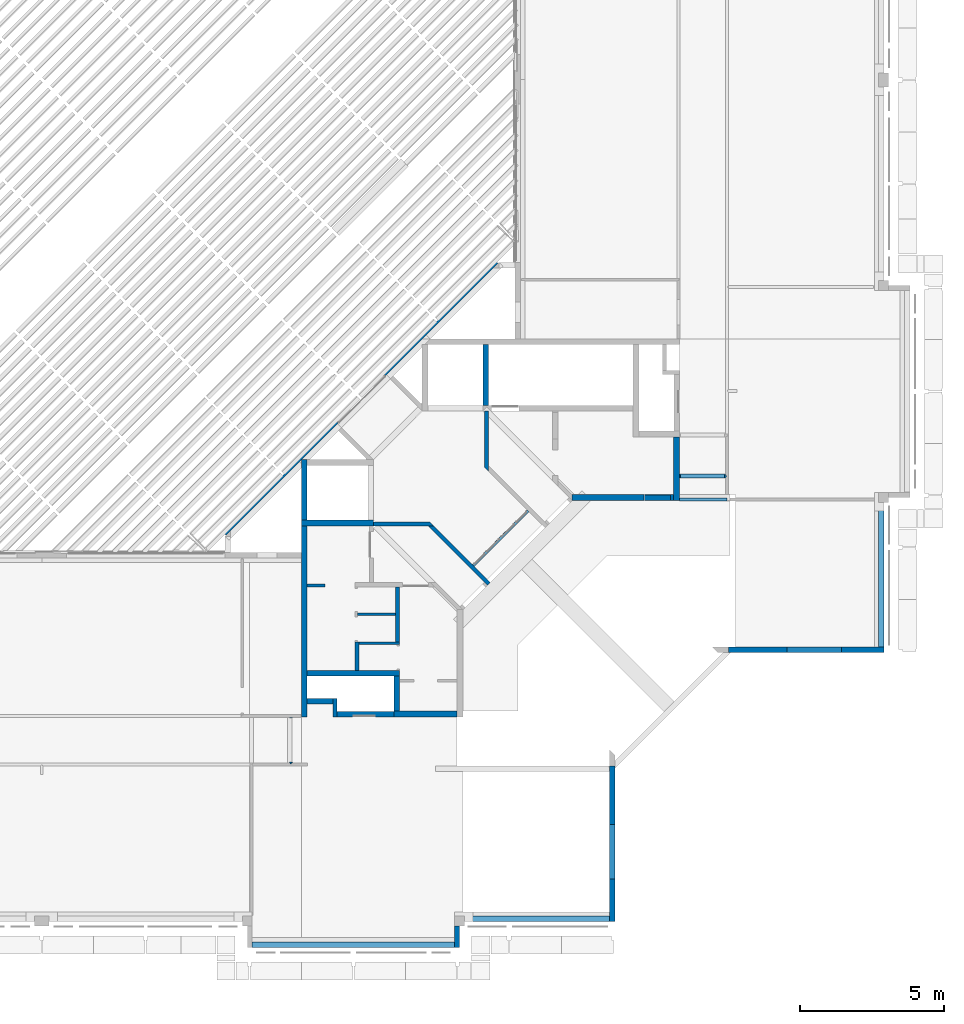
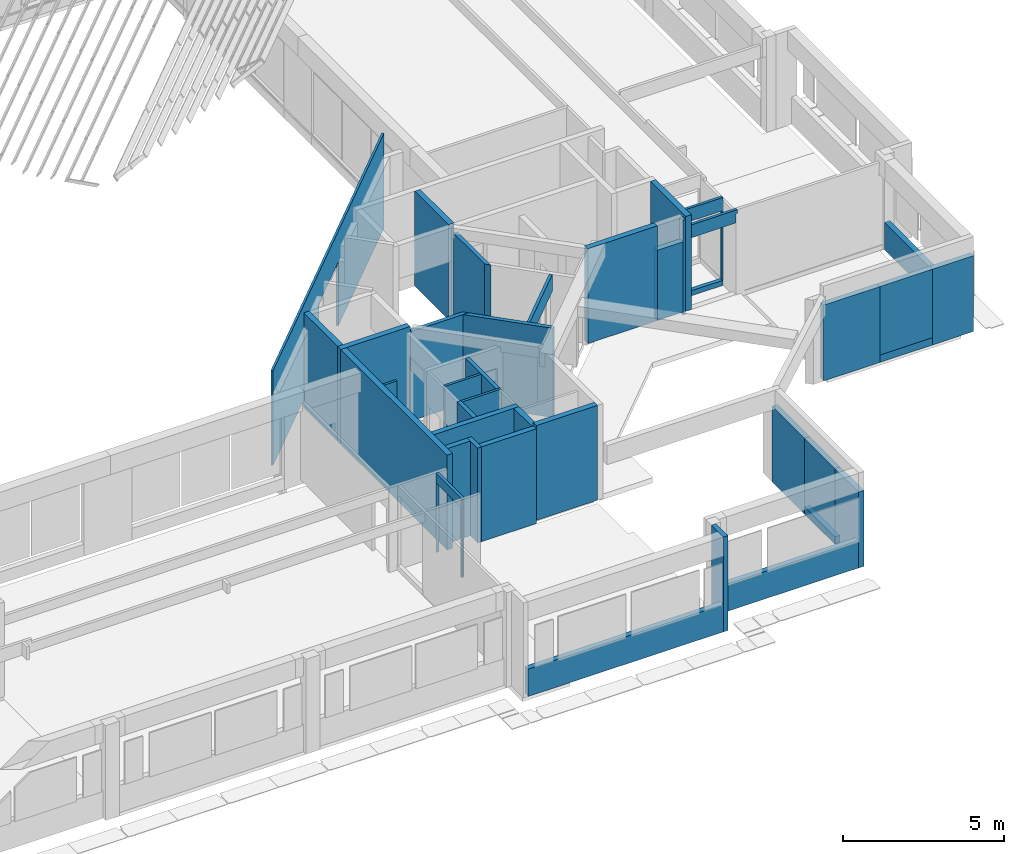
# One storey, part 27 of 37: 42 walls.
"""IFC4X3_ADD2 building model written with IfcOpenShell, lengths in millimetres."""

from ifc_helpers import new_model, si_unit, direction, frame, frame_2d, origin_with_axes, origin_2d_with_axis, place, context, subcontext, project, spatial, polyline, rectangle, outline, extrude, source, transform, mapped, material, type_object, type_shapes, element, save


model = new_model("IFC4X3_ADD2")

# Units and contexts
model_context = context("Model", 3, precision=1e-05, world=origin_with_axes(), true_north=direction((0.0, 1.0)))
body_context = subcontext(model_context, "Body", "Model", "MODEL_VIEW")
ifc_project = project(units=[si_unit("LENGTHUNIT", "METRE", prefix="MILLI"), si_unit("AREAUNIT", "SQUARE_METRE"), si_unit("VOLUMEUNIT", "CUBIC_METRE"), si_unit("PLANEANGLEUNIT", "RADIAN"), si_unit("TIMEUNIT", "SECOND"), si_unit("MASSUNIT", "GRAM")], contexts=[model_context])

# Site, building, storey
site_placement = place(None, origin_with_axes())
site = spatial("IfcSite", under=ifc_project, at=site_placement, Name="Site", CompositionType="ELEMENT")
building_placement = place(site_placement, origin_with_axes())
building = spatial("IfcBuilding", under=site, at=building_placement, Name="IFC Building Story")
storey_placement = place(building_placement, frame((0.0, 0.0, 3600.0), z_axis=(0.0, 0.0, 1.0), x_axis=(1.0, 0.0, 0.0)))
storey = spatial("IfcBuildingStorey", under=building, at=storey_placement, Name="010", Elevation=3600.0)

# Walls
ifc_material_1 = material(Name="BB_Beton_Bestaand")
wall_type_1 = type_object("IfcWallType", Name="BB_Beton_Bestaand 200", PredefinedType="NOTDEFINED", material=ifc_material_1)
wall_1_placement = place(storey_placement, origin_with_axes())
element("IfcWall", 1, at=wall_1_placement, inside=storey, type_object=wall_type_1, Name="Basic Wall:BB_XX_Wand uit beton, 200 mm", ObjectType="Basic Wall:BB_XX_Wand uit beton, 200 mm", PredefinedType="SOLIDWALL", context=body_context, shape_type="SweptSolid", body=[
    extrude(rectangle(XDim=2199.999999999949, YDim=200.0, at=frame_2d((0.0, 0.0), x_axis=(0.0, 1.0))), frame((-7100.0, 15600.00000000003, -80.0), z_axis=(0.0, 0.0, 1.0), x_axis=(1.0, 0.0, 0.0)), (0.0, 0.0, 1.0), 3600.0),
])
wall_2_placement = place(storey_placement, origin_with_axes())
element("IfcWall", 2, at=wall_2_placement, inside=storey, type_object=wall_type_1, Name="Basic Wall:BB_XX_Wand uit beton, 200 mm", ObjectType="Basic Wall:BB_XX_Wand uit beton, 200 mm", PredefinedType="SOLIDWALL", context=body_context, shape_type="SweptSolid", body=[
    extrude(rectangle(XDim=2099.999999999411, YDim=199.9999999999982, at=frame_2d((0.0, 0.0), x_axis=(0.0, 1.0))), frame((-13715.0, 18849.99999999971, -80.0), z_axis=(0.0, 0.0, 1.0), x_axis=(1.0, 0.0, 0.0)), (0.0, 0.0, 1.0), 3600.0),
])
wall_3_placement = place(storey_placement, origin_with_axes())
element("IfcWall", 3, at=wall_3_placement, inside=storey, type_object=wall_type_1, Name="Basic Wall:BB_XX_Wand uit beton, 200 mm", ObjectType="Basic Wall:BB_XX_Wand uit beton, 200 mm", PredefinedType="SOLIDWALL", context=body_context, shape_type="SweptSolid", body=[
    extrude(rectangle(XDim=2496.005050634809, YDim=199.9999999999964, at=origin_2d_with_axis()), frame((-9468.002525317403, 14600.0, -80.0), z_axis=(0.0, 0.0, 1.0), x_axis=(1.0, 0.0, 0.0)), (0.0, 0.0, 1.0), 3600.0),
])
wall_4_placement = place(storey_placement, origin_with_axes())
element("IfcWall", 4, at=wall_4_placement, inside=storey, type_object=wall_type_1, Name="Basic Wall:BB_XX_Wand uit beton, 200 mm", ObjectType="Basic Wall:BB_XX_Wand uit beton, 200 mm", PredefinedType="SOLIDWALL", context=body_context, shape_type="SweptSolid", body=[
    extrude(rectangle(XDim=2499.999999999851, YDim=199.9999999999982, at=origin_2d_with_axis()), frame((-18849.99999999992, 13715.0, -80.0), z_axis=(0.0, 0.0, 1.0), x_axis=(1.0, 0.0, 0.0)), (0.0, 0.0, 1.0), 3600.0),
])
wall_5_placement = place(storey_placement, origin_with_axes())
element("IfcWall", 5, at=wall_5_placement, inside=storey, type_object=wall_type_1, Name="Basic Wall:BB_XX_Wand uit beton, 200 mm", ObjectType="Basic Wall:BB_XX_Wand uit beton, 200 mm", PredefinedType="SOLIDWALL", context=body_context, shape_type="SweptSolid", body=[
    extrude(rectangle(XDim=2099.99999999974, YDim=200.0, at=frame_2d((0.0, 0.0), x_axis=(0.0, 1.0))), frame((-20000.0, 14864.99999999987, -80.0), z_axis=(0.0, 0.0, 1.0), x_axis=(1.0, 0.0, 0.0)), (0.0, 0.0, 1.0), 3600.0),
])
wall_6_placement = place(storey_placement, origin_with_axes())
element("IfcWall", 6, at=wall_6_placement, inside=storey, type_object=wall_type_1, Name="Basic Wall:BB_XX_Wand uit beton, 200 mm", ObjectType="Basic Wall:BB_XX_Wand uit beton, 200 mm", PredefinedType="SOLIDWALL", context=body_context, shape_type="SweptSolid", body=[
    extrude(rectangle(XDim=6615.0, YDim=200.0, at=frame_2d((0.0, 0.0), x_axis=(0.0, 1.0))), frame((-20000.0, 10307.5, -80.0), z_axis=(0.0, 0.0, 1.0), x_axis=(1.0, 0.0, 0.0)), (0.0, 0.0, 1.0), 3600.0),
])
wall_7_placement = place(storey_placement, origin_with_axes())
element("IfcWall", 7, at=wall_7_placement, inside=storey, type_object=wall_type_1, Name="Basic Wall:BB_XX_Wand uit beton, 200 mm", ObjectType="Basic Wall:BB_XX_Wand uit beton, 200 mm", PredefinedType="SOLIDWALL", context=body_context, shape_type="SweptSolid", body=[
    extrude(rectangle(XDim=2190.0, YDim=200.0, at=origin_2d_with_axis()), frame((-15795.0, 7100.0, -80.0), z_axis=(0.0, 0.0, 1.0), x_axis=(1.0, 0.0, 0.0)), (0.0, 0.0, 1.0), 3600.0),
])
wall_type_2 = type_object("IfcWallType", Name="BB_Beton_Bestaand 190", PredefinedType="NOTDEFINED", material=ifc_material_1)
wall_8_placement = place(storey_placement, origin_with_axes())
element("IfcWall", 8, at=wall_8_placement, inside=storey, type_object=wall_type_2, Name="Basic Wall:BB_XX_Wand uit beton, 190 mm", ObjectType="Basic Wall:BB_XX_Wand uit beton, 190 mm", PredefinedType="SOLIDWALL", context=body_context, shape_type="SweptSolid", body=[
    extrude(rectangle(XDim=7010.000000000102, YDim=190.0, at=origin_2d_with_axis()), frame((-18300.00000000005, -900.0, -200.0), z_axis=(0.0, 0.0, 1.0), x_axis=(1.0, 0.0, 0.0)), (0.0, 0.0, 1.0), 1040.0),
])
wall_9_placement = place(storey_placement, origin_with_axes())
element("IfcWall", 9, at=wall_9_placement, inside=storey, type_object=wall_type_2, Name="Basic Wall:BB_XX_Wand uit beton, 190 mm", ObjectType="Basic Wall:BB_XX_Wand uit beton, 190 mm", PredefinedType="SOLIDWALL", context=body_context, shape_type="SweptSolid", body=[
    extrude(rectangle(XDim=5040.000000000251, YDim=190.0, at=origin_2d_with_axis()), frame((-11935.00000000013, 0.0, -200.0), z_axis=(0.0, 0.0, 1.0), x_axis=(1.0, 0.0, 0.0)), (0.0, 0.0, 1.0), 1040.0),
])
wall_10_placement = place(storey_placement, origin_with_axes())
element("IfcWall", 10, at=wall_10_placement, inside=storey, type_object=wall_type_2, Name="Basic Wall:BB_XX_Wand uit beton, 190 mm", ObjectType="Basic Wall:BB_XX_Wand uit beton, 190 mm", PredefinedType="SOLIDWALL", context=body_context, shape_type="SweptSolid", body=[
    extrude(rectangle(XDim=1480.0, YDim=190.0, at=frame_2d((0.0, 0.0), x_axis=(0.0, 1.0))), frame((-9320.0, 644.999999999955, -200.0), z_axis=(0.0, 0.0, 1.0), x_axis=(1.0, 0.0, 0.0)), (0.0, 0.0, 1.0), 2880.0),
])
wall_11_placement = place(storey_placement, origin_with_axes())
element("IfcWall", 11, at=wall_11_placement, inside=storey, type_object=wall_type_2, Name="Basic Wall:BB_XX_Wand uit beton, 190 mm", ObjectType="Basic Wall:BB_XX_Wand uit beton, 190 mm", PredefinedType="SOLIDWALL", context=body_context, shape_type="SweptSolid", body=[
    extrude(rectangle(XDim=2014.99999999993, YDim=190.0, at=frame_2d((0.0, 0.0), x_axis=(0.0, 1.0))), frame((-9320.0, 4282.499999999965, -200.0), z_axis=(0.0, 0.0, 1.0), x_axis=(1.0, 0.0, 0.0)), (0.0, 0.0, 1.0), 2880.0),
])
wall_12_placement = place(storey_placement, origin_with_axes())
element("IfcWall", 12, at=wall_12_placement, inside=storey, type_object=wall_type_2, Name="Basic Wall:BB_XX_Wand uit beton, 190 mm", ObjectType="Basic Wall:BB_XX_Wand uit beton, 190 mm", PredefinedType="SOLIDWALL", context=body_context, shape_type="SweptSolid", body=[
    extrude(rectangle(XDim=1480.00000000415, YDim=190.0, at=origin_2d_with_axis()), frame((-645.000000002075, 9320.0, -200.0), z_axis=(0.0, 0.0, 1.0), x_axis=(1.0, 0.0, 0.0)), (0.0, 0.0, 1.0), 2880.0),
])
wall_13_placement = place(storey_placement, origin_with_axes())
element("IfcWall", 13, at=wall_13_placement, inside=storey, type_object=wall_type_2, Name="Basic Wall:BB_XX_Wand uit beton, 190 mm", ObjectType="Basic Wall:BB_XX_Wand uit beton, 190 mm", PredefinedType="SOLIDWALL", context=body_context, shape_type="SweptSolid", body=[
    extrude(rectangle(XDim=2015.00000000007, YDim=190.0, at=origin_2d_with_axis()), frame((-4282.500000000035, 9320.0, -200.0), z_axis=(0.0, 0.0, 1.0), x_axis=(1.0, 0.0, 0.0)), (0.0, 0.0, 1.0), 2880.0),
])
wall_14_placement = place(storey_placement, origin_with_axes())
element("IfcWall", 14, at=wall_14_placement, inside=storey, type_object=wall_type_2, Name="Basic Wall:BB_XX_Wand uit beton, 190 mm", ObjectType="Basic Wall:BB_XX_Wand uit beton, 190 mm", PredefinedType="SOLIDWALL", context=body_context, shape_type="SweptSolid", body=[
    extrude(rectangle(XDim=5040.000000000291, YDim=190.0, at=frame_2d((0.0, 0.0), x_axis=(0.0, 1.0))), frame((0.0, 11934.99999999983, -200.0), z_axis=(0.0, 0.0, 1.0), x_axis=(1.0, 0.0, 0.0)), (0.0, 0.0, 1.0), 1040.0),
])
wall_15_placement = place(storey_placement, origin_with_axes())
element("IfcWall", 15, at=wall_15_placement, inside=storey, type_object=wall_type_2, Name="Basic Wall:BB_XX_Wand uit beton, 190 mm", ObjectType="Basic Wall:BB_XX_Wand uit beton, 190 mm", PredefinedType="SOLIDWALL", context=body_context, shape_type="SweptSolid", body=[
    extrude(rectangle(XDim=1890.00000000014, YDim=190.0, at=frame_2d((0.0, 0.0), x_axis=(0.0, 1.0))), frame((-9320.0, 2330.00000000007, -200.0), z_axis=(0.0, 0.0, 1.0), x_axis=(1.0, 0.0, 0.0)), (0.0, 0.0, 1.0), 280.0),
])
wall_16_placement = place(storey_placement, origin_with_axes())
element("IfcWall", 16, at=wall_16_placement, inside=storey, type_object=wall_type_2, Name="Basic Wall:BB_XX_Wand uit beton, 190 mm", ObjectType="Basic Wall:BB_XX_Wand uit beton, 190 mm", PredefinedType="SOLIDWALL", context=body_context, shape_type="SweptSolid", body=[
    extrude(rectangle(XDim=1890.0, YDim=190.0, at=origin_2d_with_axis()), frame((-2330.0, 9320.0, -200.0), z_axis=(0.0, 0.0, 1.0), x_axis=(1.0, 0.0, 0.0)), (0.0, 0.0, 1.0), 280.0),
])
wall_17_placement = place(storey_placement, origin_with_axes())
element("IfcWall", 17, at=wall_17_placement, inside=storey, type_object=wall_type_2, Name="Basic Wall:BB_XX_Wand uit beton, 190 mm", ObjectType="Basic Wall:BB_XX_Wand uit beton, 190 mm", PredefinedType="SOLIDWALL", context=body_context, shape_type="SweptSolid", body=[
    extrude(rectangle(XDim=1890.00000000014, YDim=190.0, at=frame_2d((0.0, 0.0), x_axis=(0.0, 1.0))), frame((-9320.0, 2330.00000000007, -200.0), z_axis=(0.0, 0.0, 1.0), x_axis=(1.0, 0.0, 0.0)), (0.0, 0.0, 1.0), 280.0),
])
wall_type_3 = type_object("IfcWallType", Name="BB_Beton_Bestaand 170", PredefinedType="NOTDEFINED", material=ifc_material_1)
wall_18_placement = place(storey_placement, origin_with_axes())
element("IfcWall", 18, at=wall_18_placement, inside=storey, type_object=wall_type_3, Name="Basic Wall:BB_XX_Wand uit beton, 170 mm", ObjectType="Basic Wall:BB_XX_Wand uit beton, 170 mm", PredefinedType="SOLIDWALL", context=body_context, shape_type="SweptSolid", body=[
    extrude(rectangle(XDim=750.000000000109, YDim=170.0, at=frame_2d((0.0, 0.0), x_axis=(0.0, 1.0))), frame((-14710.0, -620.0000000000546, -200.0), z_axis=(0.0, 0.0, 1.0), x_axis=(1.0, 0.0, 0.0)), (0.0, 0.0, 1.0), 3600.0),
])
ifc_material_2 = material(Name="BB_Metselwerk_Bestaand")
wall_type_4 = type_object("IfcWallType", Name="BB_Metselwerk_Bestaand 140", PredefinedType="NOTDEFINED", material=ifc_material_2)
wall_19_placement = place(storey_placement, origin_with_axes())
element("IfcWall", 19, at=wall_19_placement, inside=storey, type_object=wall_type_4, Name="Basic Wall:BB_XX_Wand uit metselwerk, 140 mm", ObjectType="Basic Wall:BB_XX_Wand uit metselwerk, 140 mm", PredefinedType="SOLIDWALL", context=body_context, shape_type="SweptSolid", body=[
    extrude(rectangle(XDim=639.9999999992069, YDim=140.0, at=frame_2d((0.0, 0.0), x_axis=(0.0, 1.0))), frame((-18930.1640790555, 7319.999999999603, -200.0), z_axis=(0.0, 0.0, 1.0), x_axis=(1.0, 0.0, 0.0)), (0.0, 0.0, 1.0), 3600.0),
])
wall_20_placement = place(storey_placement, origin_with_axes())
element("IfcWall", 20, at=wall_20_placement, inside=storey, type_object=wall_type_4, Name="Basic Wall:BB_XX_Wand uit metselwerk, 140 mm", ObjectType="Basic Wall:BB_XX_Wand uit metselwerk, 140 mm", PredefinedType="SOLIDWALL", context=body_context, shape_type="SweptSolid", body=[
    extrude(rectangle(XDim=1000.0, YDim=140.0, at=frame_2d((0.0, 0.0), x_axis=(0.0, 1.0))), frame((-18170.0, 9100.0, -80.0), z_axis=(0.0, 0.0, 1.0), x_axis=(1.0, 0.0, 0.0)), (0.0, 0.0, 1.0), 3400.0),
])
wall_21_placement = place(storey_placement, origin_with_axes())
element("IfcWall", 21, at=wall_21_placement, inside=storey, type_object=wall_type_4, Name="Basic Wall:BB_XX_Wand uit metselwerk, 140 mm", ObjectType="Basic Wall:BB_XX_Wand uit metselwerk, 140 mm", PredefinedType="SOLIDWALL", context=body_context, shape_type="SweptSolid", body=[
    extrude(rectangle(XDim=1910.00000000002, YDim=140.0, at=frame_2d((0.0, 0.0), x_axis=(0.0, 1.0))), frame((-16770.0, 10554.99999999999, -80.0), z_axis=(0.0, 0.0, 1.0), x_axis=(1.0, 0.0, 0.0)), (0.0, 0.0, 1.0), 3400.0),
])
wall_type_5 = type_object("IfcWallType", Name="BB_Metselwerk_Bestaand 190", PredefinedType="NOTDEFINED", material=ifc_material_2)
wall_22_placement = place(storey_placement, origin_with_axes())
element("IfcWall", 22, at=wall_22_placement, inside=storey, type_object=wall_type_5, Name="Basic Wall:BB_XX_Wand uit metselwerk, 190 mm", ObjectType="Basic Wall:BB_XX_Wand uit metselwerk, 190 mm", PredefinedType="SOLIDWALL", context=body_context, shape_type="SweptSolid", body=[
    extrude(rectangle(XDim=1970.164079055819, YDim=190.0, at=origin_2d_with_axis()), frame((-17875.08203952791, 7095.0, -200.0), z_axis=(0.0, 0.0, 1.0), x_axis=(1.0, 0.0, 0.0)), (0.0, 0.0, 1.0), 3600.0),
])
wall_23_placement = place(storey_placement, origin_with_axes())
element("IfcWall", 23, at=wall_23_placement, inside=storey, type_object=wall_type_5, Name="Basic Wall:BB_XX_Wand uit metselwerk, 190 mm", ObjectType="Basic Wall:BB_XX_Wand uit metselwerk, 190 mm", PredefinedType="SOLIDWALL", context=body_context, shape_type="SweptSolid", body=[
    extrude(rectangle(XDim=899.8359209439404, YDim=190.0, at=origin_2d_with_axis()), frame((-19450.08203952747, 7545.0, -200.0), z_axis=(0.0, 0.0, 1.0), x_axis=(1.0, 0.0, 0.0)), (0.0, 0.0, 1.0), 3600.0),
])
wall_24_placement = place(storey_placement, origin_with_axes())
element("IfcWall", 24, at=wall_24_placement, inside=storey, type_object=wall_type_5, Name="Basic Wall:BB_XX_Wand uit metselwerk, 190 mm", ObjectType="Basic Wall:BB_XX_Wand uit metselwerk, 190 mm", PredefinedType="SOLIDWALL", context=body_context, shape_type="SweptSolid", body=[
    extrude(rectangle(XDim=3199.884221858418, YDim=190.0, at=origin_2d_with_axis()), frame((-18300.05788907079, 8505.0, -80.0), z_axis=(0.0, 0.0, 1.0), x_axis=(1.0, 0.0, 0.0)), (0.0, 0.0, 1.0), 3400.0),
])
wall_25_placement = place(storey_placement, origin_with_axes())
element("IfcWall", 25, at=wall_25_placement, inside=storey, type_object=wall_type_5, Name="Basic Wall:BB_XX_Wand uit metselwerk, 190 mm", ObjectType="Basic Wall:BB_XX_Wand uit metselwerk, 190 mm", PredefinedType="SOLIDWALL", context=body_context, shape_type="SweptSolid", body=[
    extrude(rectangle(XDim=1210.00000000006, YDim=190.0, at=frame_2d((0.0, 0.0), x_axis=(0.0, 1.0))), frame((-16795.1157781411, 7804.99999999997, -80.0), z_axis=(0.0, 0.0, 1.0), x_axis=(1.0, 0.0, 0.0)), (0.0, 0.0, 1.0), 3400.0),
])
ifc_material_3 = material(Name="BB_Metselwerk_Betonsteen")
wall_type_6 = type_object("IfcWallType", Name="BB_Metselwerk_Betonsteen 190", PredefinedType="NOTDEFINED", material=ifc_material_3)
wall_26_placement = place(storey_placement, origin_with_axes())
element("IfcWall", 26, at=wall_26_placement, inside=storey, type_object=wall_type_6, Name="Basic Wall:BB_03.09.24#03_Wand uit metselwerk, 190 mm", ObjectType="Basic Wall:BB_03.09.24#03_Wand uit metselwerk, 190 mm", PredefinedType="SOLIDWALL", context=body_context, shape_type="SweptSolid", body=[
    extrude(rectangle(XDim=1890.00000000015, YDim=190.0, at=frame_2d((0.0, 0.0), x_axis=(0.0, 1.0))), frame((-9320.0, 2329.999999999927, 80.0), z_axis=(0.0, 0.0, 1.0), x_axis=(1.0, 0.0, 0.0)), (0.0, 0.0, 1.0), 2600.0),
])
wall_27_placement = place(storey_placement, origin_with_axes())
element("IfcWall", 27, at=wall_27_placement, inside=storey, type_object=wall_type_6, Name="Basic Wall:BB_03.09.24#03_Wand uit metselwerk, 190 mm", ObjectType="Basic Wall:BB_03.09.24#03_Wand uit metselwerk, 190 mm", PredefinedType="SOLIDWALL", context=body_context, shape_type="SweptSolid", body=[
    extrude(rectangle(XDim=1890.00000000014, YDim=190.0, at=origin_2d_with_axis()), frame((-2329.99999999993, 9320.0, 80.0), z_axis=(0.0, 0.0, 1.0), x_axis=(1.0, 0.0, 0.0)), (0.0, 0.0, 1.0), 2600.0),
])
wall_28_placement = place(storey_placement, origin_with_axes())
element("IfcWall", 28, at=wall_28_placement, inside=storey, type_object=wall_type_6, Name="Basic Wall:BB_03.09.24#05_Wand uit metselwerk_EI60, 190 mm", ObjectType="Basic Wall:BB_03.09.24#05_Wand uit metselwerk_EI60, 190 mm", PredefinedType="SOLIDWALL", context=body_context, shape_type="SweptSolid", body=[
    extrude(rectangle(XDim=909.9999999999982, YDim=190.0, at=origin_2d_with_axis()), frame((-7754.999999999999, 14595.0, -80.0), z_axis=(0.0, 0.0, 1.0), x_axis=(1.0, 0.0, 0.0)), (0.0, 0.0, 1.0), 2670.0),
])
wall_type_7 = type_object("IfcWallType", Name="Basic Wall_BB_10.01_Akoestische voorzetwand atrium_ 75 mm", PredefinedType="NOTDEFINED")
shared_shape_1 = source(origin_with_axes(), body_context, "Body", "SweptSolid", [
    extrude(outline(polyline([(6666.748205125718, -2095.624999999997), (-6669.073978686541, -2095.624999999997), (-6669.073978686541, 1504.375000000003), (-1161.336372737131, 1504.375000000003), (-1161.336372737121, -913.1250000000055), (1163.662146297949, -913.1250000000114), (1163.662146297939, 1504.375000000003), (6666.74820512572, 1504.375000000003), (6666.748205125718, -2095.624999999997)])), frame((6669.073978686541, -12.49999999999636, 1504.375000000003), z_axis=(0.0, 1.0, 0.0), x_axis=(1.0, 0.0, 0.0)), (0.0, 0.0, 1.0), 49.99999999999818),
    extrude(outline(polyline([(-6669.073978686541, 1504.375000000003), (-1161.336372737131, 1504.375000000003), (-1161.336372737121, -913.1250000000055), (1163.662146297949, -913.1250000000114), (1163.662146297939, 1504.375000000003), (6666.74820512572, 1504.375000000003), (6666.748205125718, -2095.624999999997), (-6669.073978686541, -2095.624999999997), (-6669.073978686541, 1504.375000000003)])), frame((6669.073978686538, -24.99999999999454, 1504.374999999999), z_axis=(0.0, 1.0, 0.0), x_axis=(1.0, 0.0, 0.0)), (0.0, 0.0, 1.0), 12.49999999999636),
    extrude(outline(polyline([(-6669.073978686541, 1504.375000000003), (-1161.336372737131, 1504.375000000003), (-1161.336372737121, -913.1250000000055), (1163.662146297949, -913.1250000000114), (1163.662146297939, 1504.375000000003), (6666.74820512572, 1504.375000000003), (6666.748205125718, -2095.624999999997), (-6669.073978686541, -2095.624999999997), (-6669.073978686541, 1504.375000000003)])), frame((6669.073978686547, -37.50000000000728, 1504.374999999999), z_axis=(0.0, 1.0, 0.0), x_axis=(1.0, 0.0, 0.0)), (0.0, 0.0, 1.0), 12.50000000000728),
])
type_shapes(wall_type_7, [shared_shape_1])
wall_29_placement = place(storey_placement, frame((-13312.2776438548, 22745.4037022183, 230.0), z_axis=(0.0, 0.0, 1.0), x_axis=(-0.7071067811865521, -0.707106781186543, 0.0)))
element("IfcWall", 29, at=wall_29_placement, inside=storey, type_object=wall_type_7, Name="Basic Wall:BB_10.01_Akoestische voorzetwand atrium, 75 mm", ObjectType="Basic Wall:BB_10.01_Akoestische voorzetwand atrium, 75 mm", PredefinedType="PARTITIONING", context=body_context, shape_type="MappedRepresentation", body=[
    mapped(shared_shape_1, transform((0.0, 0.0, 0.0))),
])
wall_type_8 = type_object("IfcWallType", Name="Basic Wall_BB_10.01.41#01_Gipskartonwand_MS100 _ 25.50.25_ 100 mm43", PredefinedType="NOTDEFINED")
shared_shape_2 = source(origin_with_axes(), body_context, "Body", "SweptSolid", [
    extrude(outline(polyline([(-516.6666666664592, -69.16666666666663), (-516.6666666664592, 278.3333333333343), (1083.333333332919, 278.3333333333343), (1083.333333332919, -209.1666666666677), (-566.6666666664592, -209.1666666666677), (-566.6666666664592, -69.16666666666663), (-516.6666666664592, -69.16666666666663)])), frame((566.6666666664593, 37.50000000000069, 278.3333333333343), z_axis=(0.0, 1.0, 0.0), x_axis=(1.0, 0.0, 0.0)), (0.0, 0.0, 1.0), 12.49999999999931),
    extrude(outline(polyline([(-516.6666666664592, -69.16666666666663), (-516.6666666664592, 278.3333333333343), (1083.333333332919, 278.3333333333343), (1083.333333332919, -209.1666666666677), (-566.6666666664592, -209.1666666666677), (-566.6666666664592, -69.16666666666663), (-516.6666666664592, -69.16666666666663)])), frame((566.6666666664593, 25.000000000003, 278.3333333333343), z_axis=(0.0, 1.0, 0.0), x_axis=(1.0, 0.0, 0.0)), (0.0, 0.0, 1.0), 12.4999999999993),
    extrude(outline(polyline([(-516.6666666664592, -69.16666666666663), (-516.6666666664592, 278.3333333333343), (1083.333333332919, 278.3333333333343), (1083.333333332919, -209.1666666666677), (-566.6666666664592, -209.1666666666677), (-566.6666666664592, -69.16666666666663), (-516.6666666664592, -69.16666666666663)])), frame((566.6666666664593, -25.0000000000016, 278.3333333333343), z_axis=(0.0, 1.0, 0.0), x_axis=(1.0, 0.0, 0.0)), (0.0, 0.0, 1.0), 50.00000000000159),
    extrude(outline(polyline([(-516.6666666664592, -69.16666666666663), (-516.6666666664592, 278.3333333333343), (1083.333333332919, 278.3333333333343), (1083.333333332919, -209.1666666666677), (-566.6666666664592, -209.1666666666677), (-566.6666666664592, -69.16666666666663), (-516.6666666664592, -69.16666666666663)])), frame((566.6666666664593, -37.49999999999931, 278.3333333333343), z_axis=(0.0, 1.0, 0.0), x_axis=(1.0, 0.0, 0.0)), (0.0, 0.0, 1.0), 12.49999999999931),
    extrude(outline(polyline([(-516.6666666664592, -69.16666666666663), (-516.6666666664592, 278.3333333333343), (1083.333333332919, 278.3333333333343), (1083.333333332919, -209.1666666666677), (-566.6666666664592, -209.1666666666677), (-566.6666666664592, -69.16666666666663), (-516.6666666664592, -69.16666666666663)])), frame((566.6666666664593, -49.9999999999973, 278.3333333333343), z_axis=(0.0, 1.0, 0.0), x_axis=(1.0, 0.0, 0.0)), (0.0, 0.0, 1.0), 12.4999999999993),
])
type_shapes(wall_type_8, [shared_shape_2])
wall_30_placement = place(storey_placement, frame((-5350.0, 14535.0, 2652.5), z_axis=(0.0, 0.0, 1.0), x_axis=(-1.0, 0.0, 0.0)))
element("IfcWall", 30, at=wall_30_placement, inside=storey, type_object=wall_type_8, Name="Basic Wall:BB_10.01.41#01_Gipskartonwand_MS100 / 25.50.25, 100 mm", ObjectType="Basic Wall:BB_10.01.41#01_Gipskartonwand_MS100 / 25.50.25, 100 mm", PredefinedType="PARTITIONING", context=body_context, shape_type="MappedRepresentation", body=[
    mapped(shared_shape_2, transform((0.0, 0.0, 0.0))),
])
wall_type_9 = type_object("IfcWallType", Name="Basic Wall_BB_10.01.41#21_Gipskartonwand_EI60_43dB_MS100 _ 25.50.25_ 100 mm35", PredefinedType="NOTDEFINED")
shared_shape_3 = source(origin_with_axes(), body_context, "Body", "SweptSolid", [
    extrude(outline(polyline([(761.2499999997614, 1415.0), (791.2500000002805, 1415.0), (791.2500000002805, -1595.0), (-793.7499999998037, -1595.0), (-793.7499999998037, 1415.0), (-758.7500000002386, 1415.0), (-758.7500000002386, -1235.0), (761.2499999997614, -1235.0), (761.2499999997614, 1415.0)])), frame((793.7499999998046, 37.4999999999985, 1415.0), z_axis=(0.0, 1.0, 0.0), x_axis=(1.0, 0.0, 0.0)), (0.0, 0.0, 1.0), 12.5000000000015),
    extrude(outline(polyline([(764.3749999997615, -1235.0), (764.3749999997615, 1415.0), (794.3750000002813, 1415.0), (794.3750000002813, -1595.0), (-803.1249999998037, -1595.0), (-803.1249999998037, 1415.0), (-755.6250000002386, 1415.0), (-755.6250000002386, -1235.0), (764.3749999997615, -1235.0)])), frame((790.6249999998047, 24.9999999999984, 1415.0), z_axis=(0.0, 1.0, 0.0), x_axis=(1.0, 0.0, 0.0)), (0.0, 0.0, 1.0), 12.50000000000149),
    extrude(outline(polyline([(767.4999999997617, -1235.0), (767.4999999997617, 1415.0), (797.5000000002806, 1415.0), (797.5000000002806, -1595.0), (-812.4999999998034, -1595.0), (-812.4999999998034, 1415.0), (-752.5000000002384, 1415.0), (-752.5000000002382, -1235.0), (767.4999999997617, -1235.0)])), frame((787.4999999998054, -24.9999999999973, 1415.0), z_axis=(0.0, 1.0, 0.0), x_axis=(1.0, 0.0, 0.0)), (0.0, 0.0, 1.0), 49.9999999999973),
    extrude(outline(polyline([(761.2499999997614, -1235.0), (761.2499999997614, 1415.0), (791.2500000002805, 1415.0), (791.2500000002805, -1595.0), (-793.7499999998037, -1595.0), (-793.7499999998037, 1415.0), (-758.7500000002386, 1415.0), (-758.7500000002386, -1235.0), (761.2499999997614, -1235.0)])), frame((793.7499999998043, -37.5000000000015, 1415.0), z_axis=(0.0, 1.0, 0.0), x_axis=(1.0, 0.0, 0.0)), (0.0, 0.0, 1.0), 12.5000000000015),
    extrude(outline(polyline([(761.2499999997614, -1235.0), (761.2499999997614, 1415.0), (791.2500000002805, 1415.0), (791.2500000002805, -1595.0), (-793.7499999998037, -1595.0), (-793.7499999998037, 1415.0), (-758.7500000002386, 1415.0), (-758.7500000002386, -1235.0), (761.2499999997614, -1235.0)])), frame((793.7499999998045, -49.99999999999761, 1415.0), z_axis=(0.0, 1.0, 0.0), x_axis=(1.0, 0.0, 0.0)), (0.0, 0.0, 1.0), 12.49999999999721),
])
type_shapes(wall_type_9, [shared_shape_3])
wall_31_placement = place(storey_placement, frame((-20465.0, 5400.0, -10.0), z_axis=(0.0, 0.0, 1.0), x_axis=(0.0, 1.0, 0.0)))
element("IfcWall", 31, at=wall_31_placement, inside=storey, type_object=wall_type_9, Name="Basic Wall:BB_10.01.41#21_Gipskartonwand_EI60_43dB_MS100 / 25.50.25, 100 mm", ObjectType="Basic Wall:BB_10.01.41#21_Gipskartonwand_EI60_43dB_MS100 / 25.50.25, 100 mm", PredefinedType="PARTITIONING", context=body_context, shape_type="MappedRepresentation", body=[
    mapped(shared_shape_3, transform((0.0, 0.0, 0.0))),
])
wall_type_10 = type_object("IfcWallType", Name="Basic Wall_BB_10.01.41#21_Gipskartonwand_EI60_43dB_MS100 _ 25.50.25_ 100 mm39", PredefinedType="NOTDEFINED")
shared_shape_4 = source(origin_with_axes(), body_context, "Body", "SweptSolid", [
    extrude(outline(polyline([(-793.7500000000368, 1450.0), (-758.7499999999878, 1450.0), (-758.7499999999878, -1200.000000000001), (761.2500000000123, -1200.000000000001), (761.2500000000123, 1450.0), (791.2500000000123, 1450.0), (791.2500000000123, -1700.0), (-793.7500000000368, -1700.0), (-793.7500000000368, 1450.0)])), frame((793.7500000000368, -49.9999999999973, 1450.0), z_axis=(0.0, 1.0, 0.0), x_axis=(1.0, 0.0, 0.0)), (0.0, 0.0, 1.0), 12.49999999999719),
    extrude(outline(polyline([(-793.7500000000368, 1450.0), (-758.7499999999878, 1450.0), (-758.7499999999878, -1200.000000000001), (761.2500000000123, -1200.000000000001), (761.2500000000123, 1450.0), (791.2500000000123, 1450.0), (791.2500000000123, -1700.0), (-793.7500000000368, -1700.0), (-793.7500000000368, 1450.0)])), frame((793.7500000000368, -37.49999999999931, 1450.0), z_axis=(0.0, 1.0, 0.0), x_axis=(1.0, 0.0, 0.0)), (0.0, 0.0, 1.0), 12.49999999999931),
    extrude(outline(polyline([(-655.0000000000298, 1762.000000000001), (-594.9999999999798, 1762.000000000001), (-594.9999999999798, -888.0000000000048), (925.0000000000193, -888.0000000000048), (925.0000000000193, 1762.000000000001), (955.000000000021, 1762.000000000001), (955.0000000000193, -1387.999999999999), (-630.0000000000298, -1387.999999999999), (-630.0000000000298, -1247.999999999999), (-655.0000000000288, -1247.999999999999), (-655.0000000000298, 1762.000000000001)])), frame((630.0000000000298, -25.0000000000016, 1762.000000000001), z_axis=(0.0, 1.0, 0.0), x_axis=(1.0, 0.0, 0.0)), (0.0, 0.0, 1.0), 50.00000000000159),
    extrude(outline(polyline([(-645.0000000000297, 1762.000000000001), (-597.4999999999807, 1762.000000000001), (-597.4999999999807, -888.0000000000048), (922.5000000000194, -888.0000000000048), (922.5000000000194, 1762.000000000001), (952.5000000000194, 1762.000000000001), (952.5000000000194, -1387.999999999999), (-632.5000000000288, -1387.999999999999), (-632.5000000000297, -1247.999999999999), (-645.0000000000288, -1247.999999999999), (-645.0000000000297, 1762.000000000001)])), frame((632.5000000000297, 25.00000000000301, 1762.000000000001), z_axis=(0.0, 1.0, 0.0), x_axis=(1.0, 0.0, 0.0)), (0.0, 0.0, 1.0), 12.49999999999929),
    extrude(outline(polyline([(761.2500000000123, 1450.0), (791.2500000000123, 1450.0), (791.2500000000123, -1700.0), (-793.7500000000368, -1700.0), (-793.7500000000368, 1450.0), (-758.7499999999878, 1450.0), (-758.7499999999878, -1200.000000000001), (761.2500000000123, -1200.000000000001), (761.2500000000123, 1450.0)])), frame((793.750000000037, 37.4999999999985, 1450.0), z_axis=(0.0, 1.0, 0.0), x_axis=(1.0, 0.0, 0.0)), (0.0, 0.0, 1.0), 12.5000000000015),
])
type_shapes(wall_type_10, [shared_shape_4])
wall_32_placement = place(storey_placement, frame((-5400.0, 15335.0, -10.0), z_axis=(0.0, 0.0, 1.0), x_axis=(-1.0, 0.0, 0.0)))
element("IfcWall", 32, at=wall_32_placement, inside=storey, type_object=wall_type_10, Name="Basic Wall:BB_10.01.41#21_Gipskartonwand_EI60_43dB_MS100 / 25.50.25, 100 mm", ObjectType="Basic Wall:BB_10.01.41#21_Gipskartonwand_EI60_43dB_MS100 / 25.50.25, 100 mm", PredefinedType="PARTITIONING", context=body_context, shape_type="MappedRepresentation", body=[
    mapped(shared_shape_4, transform((0.0, 0.0, 0.0))),
])
wall_type_11 = type_object("IfcWallType", Name="Basic Wall_BB_10.01.41#21_Gipskartonwand_EI60_43dB_MS100 _ 25.50.25_ 100 mm41", PredefinedType="NOTDEFINED")
shared_shape_5 = source(origin_with_axes(), body_context, "Body", "SweptSolid", [
    extrude(rectangle(XDim=2679.99999999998, YDim=12.49999999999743, at=origin_2d_with_axis()), frame((1340.0, 43.74999999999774, 0.0), z_axis=(0.0, 0.0, 1.0), x_axis=(1.0, 0.0, 0.0)), (0.0, 0.0, 1.0), 640.000000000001),
    extrude(rectangle(XDim=2680.0, YDim=12.5000000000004, at=origin_2d_with_axis()), frame((1339.999999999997, 31.2499999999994, 0.0), z_axis=(0.0, 0.0, 1.0), x_axis=(1.0, 0.0, 0.0)), (0.0, 0.0, 1.0), 640.000000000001),
    extrude(rectangle(XDim=2680.0, YDim=50.0000000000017, at=origin_2d_with_axis()), frame((1339.999999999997, 0.0, 0.0), z_axis=(0.0, 0.0, 1.0), x_axis=(1.0, 0.0, 0.0)), (0.0, 0.0, 1.0), 640.000000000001),
    extrude(rectangle(XDim=2680.0, YDim=12.5000000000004, at=origin_2d_with_axis()), frame((1339.999999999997, -31.2500000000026, 0.0), z_axis=(0.0, 0.0, 1.0), x_axis=(1.0, 0.0, 0.0)), (0.0, 0.0, 1.0), 640.000000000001),
    extrude(rectangle(XDim=2679.99999999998, YDim=12.50000000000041, at=origin_2d_with_axis()), frame((1340.000000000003, -43.750000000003, 0.0), z_axis=(0.0, 0.0, 1.0), x_axis=(1.0, 0.0, 0.0)), (0.0, 0.0, 1.0), 640.000000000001),
])
type_shapes(wall_type_11, [shared_shape_5])
wall_33_placement = place(storey_placement, frame((-12250.7164409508, 14145.762614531, 2670.0), z_axis=(0.0, 0.0, 1.0), x_axis=(-0.7071067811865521, -0.707106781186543, 0.0)))
element("IfcWall", 33, at=wall_33_placement, inside=storey, type_object=wall_type_11, Name="Basic Wall:BB_10.01.41#21_Gipskartonwand_EI60_43dB_MS100 / 25.50.25, 100 mm", ObjectType="Basic Wall:BB_10.01.41#21_Gipskartonwand_EI60_43dB_MS100 / 25.50.25, 100 mm", PredefinedType="PARTITIONING", context=body_context, shape_type="MappedRepresentation", body=[
    mapped(shared_shape_5, transform((0.0, 0.0, 0.0))),
])
wall_type_12 = type_object("IfcWallType", Name="BB_Metselwerk_Bestaand 200", PredefinedType="NOTDEFINED", material=ifc_material_2)
wall_34_placement = place(storey_placement, origin_with_axes())
element("IfcWall", 34, at=wall_34_placement, inside=storey, type_object=wall_type_12, Name="Basic Wall:BB_XX_Wand uit metselwerk, 200 mm", ObjectType="Basic Wall:BB_XX_Wand uit metselwerk, 200 mm", PredefinedType="SOLIDWALL", context=body_context, shape_type="SweptSolid", body=[
    extrude(rectangle(XDim=909.9999999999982, YDim=199.9999999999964, at=origin_2d_with_axis()), frame((-7754.999999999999, 14600.0, -80.0), z_axis=(0.0, 0.0, 1.0), x_axis=(1.0, 0.0, 0.0)), (0.0, 0.0, 1.0), 2670.0),
])
wall_type_13 = type_object("IfcWallType", Name="BB_Metselwerk_Betonsteen 140", PredefinedType="NOTDEFINED", material=ifc_material_3)
wall_35_placement = place(storey_placement, origin_with_axes())
element("IfcWall", 35, at=wall_35_placement, inside=storey, type_object=wall_type_13, Name="Basic Wall:BB_03.09.24#02_Wand uit metselwerk_EI60_43dB, 140 mm", ObjectType="Basic Wall:BB_03.09.24#02_Wand uit metselwerk_EI60_43dB, 140 mm", PredefinedType="SOLIDWALL", context=body_context, shape_type="SweptSolid", body=[
    extrude(outline(polyline([(1079.976913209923, -70.0), (-1009.976913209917, -70.00000000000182), (-1009.976913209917, 70.0), (939.9769132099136, 70.0), (1079.976913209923, -70.0)])), frame((-16590.02308679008, 13685.0, -80.0), z_axis=(0.0, 0.0, 1.0), x_axis=(1.0, 0.0, 0.0)), (0.0, 0.0, 1.0), 3390.0),
])
wall_36_placement = place(storey_placement, origin_with_axes())
element("IfcWall", 36, at=wall_36_placement, inside=storey, type_object=wall_type_13, Name="Basic Wall:BB_03.09.24#02_Wand uit metselwerk_EI60_43dB, 140 mm", ObjectType="Basic Wall:BB_03.09.24#02_Wand uit metselwerk_EI60_43dB, 140 mm", PredefinedType="SOLIDWALL", context=body_context, shape_type="SweptSolid", body=[
    extrude(outline(polyline([(952.6101233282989, -1051.605072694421), (-1101.102547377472, 1002.107598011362), (-903.1126486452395, 1002.107598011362), (1051.605072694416, -952.6101233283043), (952.6101233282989, -1051.605072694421)])), frame((-14606.93352493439, 12612.89240198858, -80.0), z_axis=(0.0, 0.0, 1.0), x_axis=(1.0, 0.0, 0.0)), (0.0, 0.0, 1.0), 3390.0),
])
wall_37_placement = place(storey_placement, origin_with_axes())
element("IfcWall", 37, at=wall_37_placement, inside=storey, type_object=wall_type_13, Name="Basic Wall:BB_03.09.24#02_Wand uit metselwerk_EI60_43dB, 140 mm", ObjectType="Basic Wall:BB_03.09.24#02_Wand uit metselwerk_EI60_43dB, 140 mm", PredefinedType="SOLIDWALL", context=body_context, shape_type="SweptSolid", body=[
    extrude(outline(polyline([(-70.0, -939.9769132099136), (-70.00000000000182, 1009.976913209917), (70.0, 1009.976913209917), (70.0, -1079.976913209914), (-70.0, -939.9769132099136)])), frame((-13685.0, 16590.02308679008, -80.0), z_axis=(0.0, 0.0, 1.0), x_axis=(1.0, 0.0, 0.0)), (0.0, 0.0, 1.0), 3390.0),
])
wall_38_placement = place(storey_placement, origin_with_axes())
element("IfcWall", 38, at=wall_38_placement, inside=storey, type_object=wall_type_13, Name="Basic Wall:BB_03.09.24#02_Wand uit metselwerk_EI60_43dB, 140 mm", ObjectType="Basic Wall:BB_03.09.24#02_Wand uit metselwerk_EI60_43dB, 140 mm", PredefinedType="SOLIDWALL", context=body_context, shape_type="SweptSolid", body=[
    extrude(rectangle(XDim=1599.99999999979, YDim=140.0, at=origin_2d_with_axis()), frame((-6199.999999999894, 15355.0, -200.0), z_axis=(0.0, 0.0, 1.0), x_axis=(1.0, 0.0, 0.0)), (0.0, 0.0, 1.0), 190.0),
])
wall_type_14 = type_object("IfcWallType", Name="BB_Metselwerk_Bestaand 90", PredefinedType="NOTDEFINED", material=ifc_material_2)
wall_39_placement = place(storey_placement, origin_with_axes())
element("IfcWall", 39, at=wall_39_placement, inside=storey, type_object=wall_type_14, Name="Basic Wall:BB_XX_Wand uit metselwerk, 90 mm", ObjectType="Basic Wall:BB_XX_Wand uit metselwerk, 90 mm", PredefinedType="SOLIDWALL", context=body_context, shape_type="SweptSolid", body=[
    extrude(rectangle(XDim=1399.999999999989, YDim=89.99999999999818, at=origin_2d_with_axis()), frame((-17400.0, 9555.0, -80.0), z_axis=(0.0, 0.0, 1.0), x_axis=(1.0, 0.0, 0.0)), (0.0, 0.0, 1.0), 3400.0),
])
wall_40_placement = place(storey_placement, origin_with_axes())
element("IfcWall", 40, at=wall_40_placement, inside=storey, type_object=wall_type_14, Name="Basic Wall:BB_XX_Wand uit metselwerk, 90 mm", ObjectType="Basic Wall:BB_XX_Wand uit metselwerk, 90 mm", PredefinedType="SOLIDWALL", context=body_context, shape_type="SweptSolid", body=[
    extrude(rectangle(XDim=1309.999999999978, YDim=90.0, at=origin_2d_with_axis()), frame((-17495.0, 10555.0, -80.0), z_axis=(0.0, 0.0, 1.0), x_axis=(1.0, 0.0, 0.0)), (0.0, 0.0, 1.0), 3400.0),
])
wall_41_placement = place(storey_placement, origin_with_axes())
element("IfcWall", 41, at=wall_41_placement, inside=storey, type_object=wall_type_14, Name="Basic Wall:BB_XX_Wand uit metselwerk, 90 mm", ObjectType="Basic Wall:BB_XX_Wand uit metselwerk, 90 mm", PredefinedType="SOLIDWALL", context=body_context, shape_type="SweptSolid", body=[
    extrude(rectangle(XDim=610.0000000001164, YDim=90.00000000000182, at=origin_2d_with_axis()), frame((-19594.99999999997, 11555.0, -80.0), z_axis=(0.0, 0.0, 1.0), x_axis=(1.0, 0.0, 0.0)), (0.0, 0.0, 1.0), 3400.0),
])
wall_type_15 = type_object("IfcWallType", Name="BB_Beton_Bestaand 100", PredefinedType="NOTDEFINED", material=ifc_material_1)
wall_42_placement = place(storey_placement, origin_with_axes())
element("IfcWall", 42, at=wall_42_placement, inside=storey, type_object=wall_type_15, Name="Basic Wall:BB_XX_Wand uit beton, 200 mm", ObjectType="Basic Wall:BB_XX_Wand uit beton, 200 mm", PredefinedType="SOLIDWALL", context=body_context, shape_type="SweptSolid", body=[
    extrude(rectangle(XDim=199.9999999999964, YDim=99.99999999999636, at=frame_2d((0.0, 0.0), x_axis=(0.0, 1.0))), frame((-7249.999999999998, 14600.0, -200.0), z_axis=(0.0, 0.0, 1.0), x_axis=(1.0, 0.0, 0.0)), (0.0, 0.0, 1.0), 3600.0),
])

save(model, "model.ifc")
